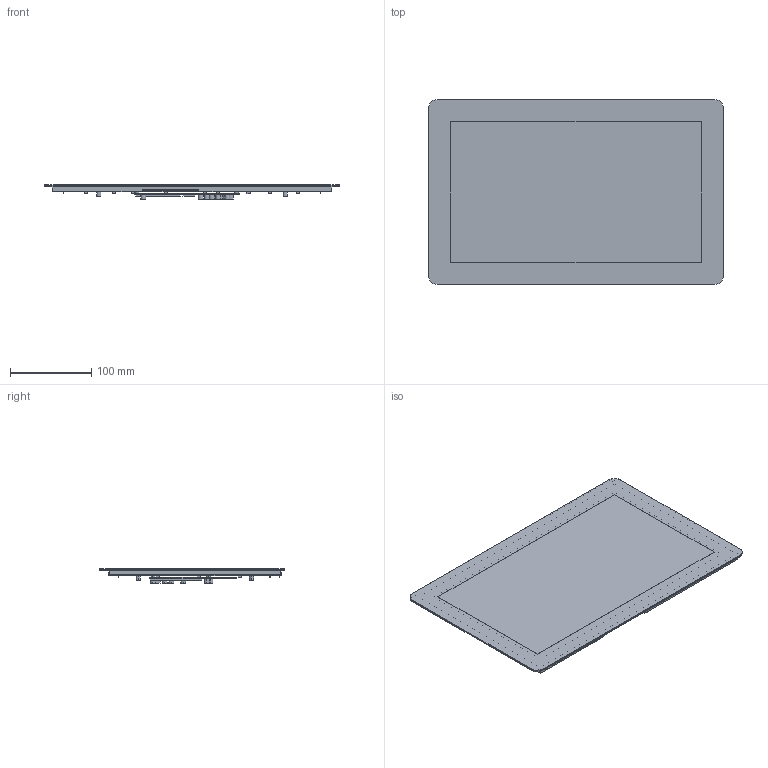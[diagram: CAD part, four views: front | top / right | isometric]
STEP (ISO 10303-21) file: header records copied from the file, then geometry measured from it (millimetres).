
FILE_DESCRIPTION((''),'2;1');
FILE_NAME('DMG9108C140-03WTC','2022-04-28T',('Administrator'),(''),'PRO/ENGINEER BY PARAMETRIC TECHNOLOGY CORPORATION, 2011310','PRO/ENGINEER BY PARAMETRIC TECHNOLOGY CORPORATION, 2011310','');
FILE_SCHEMA(('CONFIG_CONTROL_DESIGN','SHAPE_APPEARANCE_LAYERS_GROUPS'));
Length unit declared in the file: millimetre
Products named in the file (1): DMG9108C140-03WTC
Bounding box: 363.57 x 228.25 x 17.8 mm (x, y, z)
Volume: 354984.3 mm3; surface area: 487152.9 mm2
Topology: 1 solids, 1 shells, 622 faces, 1846 edges, 1208 vertices
Faces by surface type: plane 448, cylinder 174
Entity records: 24745 total; most frequent: ORIENTED_EDGE 3692, CARTESIAN_POINT 3676, DIRECTION 3438, EDGE_CURVE 1846, VECTOR 1498, LINE 1498, VERTEX_POINT 1208, AXIS2_PLACEMENT_3D 970
